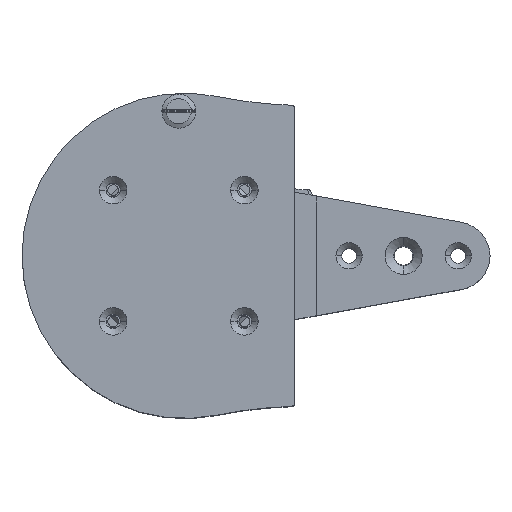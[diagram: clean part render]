
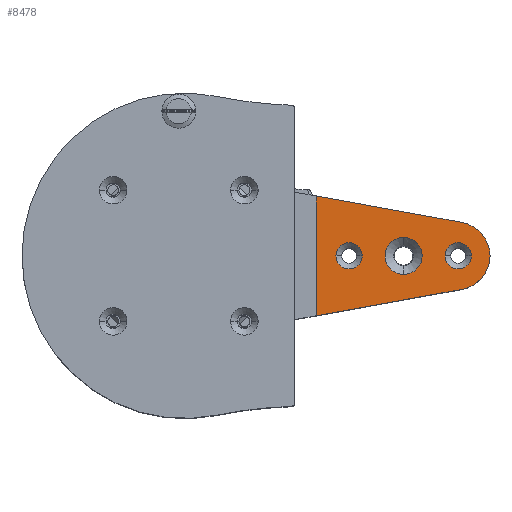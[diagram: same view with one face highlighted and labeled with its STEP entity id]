
A CAD part, top view. The second image highlights one B-rep face of the part: STEP entity #8478.
In plain terms, the highlighted planar face has unit normal (0, 0, 1).
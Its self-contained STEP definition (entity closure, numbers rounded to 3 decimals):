
#785 = EDGE_CURVE ( 'NONE', #4207, #3457, #8875, .T. ) ;
#1152 = AXIS2_PLACEMENT_3D ( 'NONE', #15237, #14865, #14606 ) ;
#1175 = AXIS2_PLACEMENT_3D ( 'NONE', #14636, #15324, #15175 ) ;
#1851 = DIRECTION ( 'NONE',  ( -0.984, -0.179, 0. ) ) ;
#1852 = CARTESIAN_POINT ( 'NONE',  ( 82.835, 25.449, 59.8 ) ) ;
#2059 = DIRECTION ( 'NONE',  ( -1., 0., 0. ) ) ;
#2325 = CARTESIAN_POINT ( 'NONE',  ( 81.043, 40.767, 59.8 ) ) ;
#2328 = DIRECTION ( 'NONE',  ( 0., 0., 1. ) ) ;
#2449 = EDGE_LOOP ( 'NONE', ( #11283, #11284 ) ) ;
#2891 = EDGE_LOOP ( 'NONE', ( #11287, #11288 ) ) ;
#2892 = EDGE_LOOP ( 'NONE', ( #11289, #11290, #11291, #11292 ) ) ;
#2992 = EDGE_LOOP ( 'NONE', ( #11285, #11286 ) ) ;
#3174 = EDGE_CURVE ( 'NONE', #4106, #4112, #8488, .T. ) ;
#3292 = EDGE_CURVE ( 'NONE', #4113, #4126, #9418, .T. ) ;
#3457 = VERTEX_POINT ( 'NONE', #5823 ) ;
#4106 = VERTEX_POINT ( 'NONE', #16767 ) ;
#4112 = VERTEX_POINT ( 'NONE', #16761 ) ;
#4113 = VERTEX_POINT ( 'NONE', #16760 ) ;
#4126 = VERTEX_POINT ( 'NONE', #16747 ) ;
#4129 = VERTEX_POINT ( 'NONE', #16744 ) ;
#4152 = VERTEX_POINT ( 'NONE', #16721 ) ;
#4153 = VERTEX_POINT ( 'NONE', #16720 ) ;
#4207 = VERTEX_POINT ( 'NONE', #16666 ) ;
#4242 = VERTEX_POINT ( 'NONE', #16631 ) ;
#4928 = DIRECTION ( 'NONE',  ( 0.984, -0.179, 0. ) ) ;
#4929 = CARTESIAN_POINT ( 'NONE',  ( 82.835, 56.086, 59.8 ) ) ;
#5823 = CARTESIAN_POINT ( 'NONE',  ( 82.835, 56.086, 59.8 ) ) ;
#6436 = CIRCLE ( 'NONE', #10877, 6. ) ;
#6444 = CIRCLE ( 'NONE', #10879, 8.5 ) ;
#6581 = VECTOR ( 'NONE', #12197, 1000. ) ;
#6583 = LINE ( 'NONE', #12198, #6581 ) ;
#6876 = CIRCLE ( 'NONE', #11093, 6. ) ;
#6896 = CIRCLE ( 'NONE', #11101, 6. ) ;
#6922 = CIRCLE ( 'NONE', #11111, 8.5 ) ;
#7234 = CIRCLE ( 'NONE', #1152, 15.569 ) ;
#7289 = FACE_OUTER_BOUND ( 'NONE', #2892, .T. ) ;
#7290 = FACE_BOUND ( 'NONE', #2891, .T. ) ;
#7291 = FACE_BOUND ( 'NONE', #2992, .T. ) ;
#7292 = FACE_BOUND ( 'NONE', #2449, .T. ) ;
#8478 = ADVANCED_FACE ( 'NONE', ( #7292, #7291, #7290, #7289 ), #15100, .F. ) ;
#8488 = CIRCLE ( 'NONE', #10382, 6. ) ;
#8874 = VECTOR ( 'NONE', #4928, 1000. ) ;
#8875 = LINE ( 'NONE', #4929, #8874 ) ;
#9417 = VECTOR ( 'NONE', #1851, 1000. ) ;
#9418 = LINE ( 'NONE', #1852, #9417 ) ;
#10382 = AXIS2_PLACEMENT_3D ( 'NONE', #2325, #2328, #2059 ) ;
#10609 = EDGE_CURVE ( 'NONE', #3457, #4113, #7234, .T. ) ;
#10838 = EDGE_CURVE ( 'NONE', #4242, #4129, #6922, .T. ) ;
#10856 = EDGE_CURVE ( 'NONE', #4153, #4152, #6896, .T. ) ;
#10871 = EDGE_CURVE ( 'NONE', #4112, #4106, #6876, .T. ) ;
#10877 = AXIS2_PLACEMENT_3D ( 'NONE', #11608, #11607, #11606 ) ;
#10879 = AXIS2_PLACEMENT_3D ( 'NONE', #11901, #11900, #11899 ) ;
#11093 = AXIS2_PLACEMENT_3D ( 'NONE', #13664, #13663, #13662 ) ;
#11101 = AXIS2_PLACEMENT_3D ( 'NONE', #13713, #13712, #13711 ) ;
#11111 = AXIS2_PLACEMENT_3D ( 'NONE', #13771, #13770, #13768 ) ;
#11283 = ORIENTED_EDGE ( 'NONE', *, *, #14458, .F. ) ;
#11284 = ORIENTED_EDGE ( 'NONE', *, *, #10838, .F. ) ;
#11285 = ORIENTED_EDGE ( 'NONE', *, *, #14463, .F. ) ;
#11286 = ORIENTED_EDGE ( 'NONE', *, *, #10856, .F. ) ;
#11287 = ORIENTED_EDGE ( 'NONE', *, *, #3174, .F. ) ;
#11288 = ORIENTED_EDGE ( 'NONE', *, *, #10871, .F. ) ;
#11289 = ORIENTED_EDGE ( 'NONE', *, *, #10609, .F. ) ;
#11290 = ORIENTED_EDGE ( 'NONE', *, *, #785, .F. ) ;
#11291 = ORIENTED_EDGE ( 'NONE', *, *, #14355, .T. ) ;
#11292 = ORIENTED_EDGE ( 'NONE', *, *, #3292, .F. ) ;
#11606 = DIRECTION ( 'NONE',  ( -1., 0., 0. ) ) ;
#11607 = DIRECTION ( 'NONE',  ( 0., 0., 1. ) ) ;
#11608 = CARTESIAN_POINT ( 'NONE',  ( 31.043, 40.767, 59.8 ) ) ;
#11899 = DIRECTION ( 'NONE',  ( 0., -1., 0. ) ) ;
#11900 = DIRECTION ( 'NONE',  ( 0., 0., 1. ) ) ;
#11901 = CARTESIAN_POINT ( 'NONE',  ( 56.043, 40.767, 59.8 ) ) ;
#12197 = DIRECTION ( 'NONE',  ( 0., -1., 0. ) ) ;
#12198 = CARTESIAN_POINT ( 'NONE',  ( 16.043, 90.767, 59.8 ) ) ;
#13662 = DIRECTION ( 'NONE',  ( -1., 0., 0. ) ) ;
#13663 = DIRECTION ( 'NONE',  ( 0., 0., 1. ) ) ;
#13664 = CARTESIAN_POINT ( 'NONE',  ( 81.043, 40.767, 59.8 ) ) ;
#13711 = DIRECTION ( 'NONE',  ( -1., 0., 0. ) ) ;
#13712 = DIRECTION ( 'NONE',  ( 0., 0., 1. ) ) ;
#13713 = CARTESIAN_POINT ( 'NONE',  ( 31.043, 40.767, 59.8 ) ) ;
#13768 = DIRECTION ( 'NONE',  ( 0., -1., 0. ) ) ;
#13770 = DIRECTION ( 'NONE',  ( 0., 0., 1. ) ) ;
#13771 = CARTESIAN_POINT ( 'NONE',  ( 56.043, 40.767, 59.8 ) ) ;
#14355 = EDGE_CURVE ( 'NONE', #4207, #4126, #6583, .T. ) ;
#14458 = EDGE_CURVE ( 'NONE', #4129, #4242, #6444, .T. ) ;
#14463 = EDGE_CURVE ( 'NONE', #4152, #4153, #6436, .T. ) ;
#14606 = DIRECTION ( 'NONE',  ( 1., 0., 0. ) ) ;
#14636 = CARTESIAN_POINT ( 'NONE',  ( 16.043, 90.767, 59.8 ) ) ;
#14865 = DIRECTION ( 'NONE',  ( 0., 0., -1. ) ) ;
#15100 = PLANE ( 'NONE',  #1175 ) ;
#15175 = DIRECTION ( 'NONE',  ( 1., 0., 0. ) ) ;
#15237 = CARTESIAN_POINT ( 'NONE',  ( 80.053, 40.767, 59.8 ) ) ;
#15324 = DIRECTION ( 'NONE',  ( 0., 0., -1. ) ) ;
#16631 = CARTESIAN_POINT ( 'NONE',  ( 56.043, 49.267, 59.8 ) ) ;
#16666 = CARTESIAN_POINT ( 'NONE',  ( 16.043, 68.219, 59.8 ) ) ;
#16720 = CARTESIAN_POINT ( 'NONE',  ( 37.043, 40.767, 59.8 ) ) ;
#16721 = CARTESIAN_POINT ( 'NONE',  ( 25.043, 40.767, 59.8 ) ) ;
#16744 = CARTESIAN_POINT ( 'NONE',  ( 56.043, 32.267, 59.8 ) ) ;
#16747 = CARTESIAN_POINT ( 'NONE',  ( 16.043, 13.316, 59.8 ) ) ;
#16760 = CARTESIAN_POINT ( 'NONE',  ( 82.835, 25.449, 59.8 ) ) ;
#16761 = CARTESIAN_POINT ( 'NONE',  ( 87.043, 40.767, 59.8 ) ) ;
#16767 = CARTESIAN_POINT ( 'NONE',  ( 75.043, 40.767, 59.8 ) ) ;
